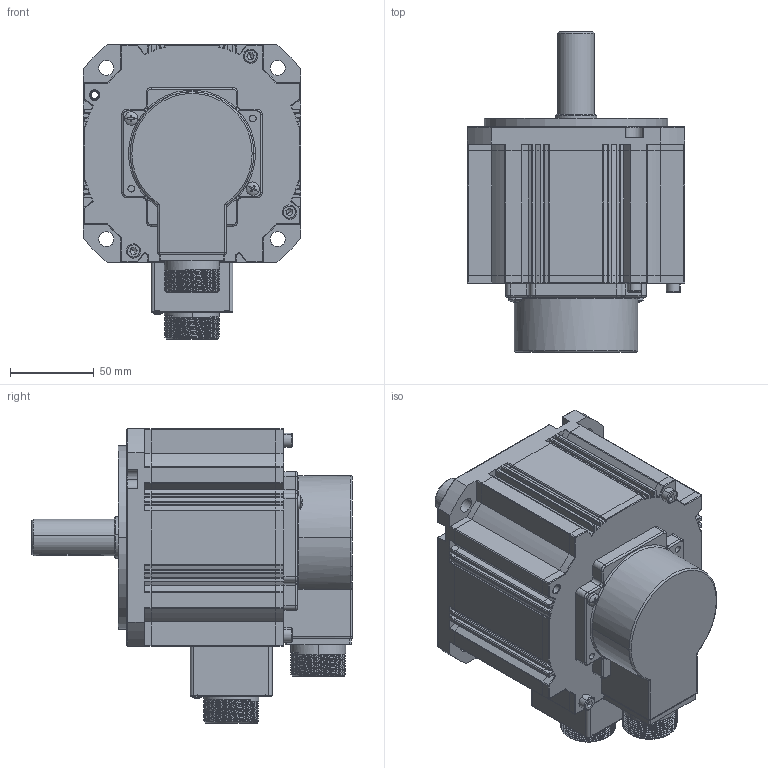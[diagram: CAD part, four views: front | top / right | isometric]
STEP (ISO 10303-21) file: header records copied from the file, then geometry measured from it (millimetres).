
FILE_DESCRIPTION (( 'STEP AP203' ), '1' );
FILE_NAME ('130JASM515230K-17BCW.STEP', '2022-06-20T08:51:23', ( 'USER-' ), ( 'MS' ), 'SwSTEP 2.0', 'SolidWorks 2018', '' );
FILE_SCHEMA (( 'CONFIG_CONTROL_DESIGN' ));
Length unit declared in the file: millimetre
Products named in the file (16): 130JASM515230K-17BCW; jike^WF130ST-C14315-3D(1)_WF130ST-C14315-3D(1); ______-1^WF130ST-C14315-3D(1)_WF130ST-C14315-3D(1); ______^_________WF130ST-C14315-3D(1)_WF130ST-C14315-3D(1); ______-2^WF130ST-C14315-3D(1)_WF130ST-C14315-3D(1); ____1^_________WF130ST-C14315-3D(1)_WF130ST-C14315-3D(1); ________-3^WF130ST-C14315-3D(1)_WF130ST-C14315-3D(1); ______-0^_________WF130ST-C14315-3D(1)_WF130ST-C14315-3D(1); hexagon socket head cap screws gb_GB_FASTENER_SCREWS_HSHCS M5X20-N^WF130ST-C14315-3D(1)_WF130ST-C14315-3D(1); ________^WF130ST-C14315-3D(1)_WF130ST-C14315-3D(1); cross recessed pan head screws gb_GB_CROSS_SCREWS_TYPE1 M4X12-12  H type-N^WF130ST-C14315-3D(1)_WF130ST-C14315-3D(1); __^________-1_WF130ST-C14315-3D(1)_WF130ST-C14315-3D(1); cross recessed pan head screws gb_GB_CROSS_SCREWS_TYPE1 M3X12-12  H type-N^WF130ST-C14315-3D(1)_WF130ST-C14315-3D(1); deep groove ball bearings gb_Rolling bearings 6205 GB 276-94^________-1_WF130ST-C14315-3D(1)_WF130ST-C14315-3D(1); ____2^WF130ST-C14315-3D(1)_WF130ST-C14315-3D(1); ________-1^WF130ST-C14315-3D(1)_WF130ST-C14315-3D(1)
Assembly tree (20 placements, depth 3):
  130JASM515230K-17BCW
    ________^WF130ST-C14315-3D(1)_WF130ST-C14315-3D(1)
      ______^_________WF130ST-C14315-3D(1)_WF130ST-C14315-3D(1)
      ____1^_________WF130ST-C14315-3D(1)_WF130ST-C14315-3D(1)
      ______-0^_________WF130ST-C14315-3D(1)_WF130ST-C14315-3D(1)
    ________-1^WF130ST-C14315-3D(1)_WF130ST-C14315-3D(1)
      __^________-1_WF130ST-C14315-3D(1)_WF130ST-C14315-3D(1)
      deep groove ball bearings gb_Rolling bearings 6205 GB 276-94^________-1_WF130ST-C14315-3D(1)_WF130ST-C14315-3D(1)  x2
    jike^WF130ST-C14315-3D(1)_WF130ST-C14315-3D(1)
    ______-1^WF130ST-C14315-3D(1)_WF130ST-C14315-3D(1)
    ______-2^WF130ST-C14315-3D(1)_WF130ST-C14315-3D(1)
    ________-3^WF130ST-C14315-3D(1)_WF130ST-C14315-3D(1)
    hexagon socket head cap screws gb_GB_FASTENER_SCREWS_HSHCS M5X20-N^WF130ST-C14315-3D(1)_WF130ST-C14315-3D(1)  x4
    cross recessed pan head screws gb_GB_CROSS_SCREWS_TYPE1 M4X12-12  H type-N^WF130ST-C14315-3D(1)_WF130ST-C14315-3D(1)  x2
    cross recessed pan head screws gb_GB_CROSS_SCREWS_TYPE1 M3X12-12  H type-N^WF130ST-C14315-3D(1)_WF130ST-C14315-3D(1)
    ____2^WF130ST-C14315-3D(1)_WF130ST-C14315-3D(1)
Bounding box: 130 x 192 x 176 mm (x, y, z)
Volume: 703748.1 mm3; surface area: 301482 mm2
Topology: 18 solids, 18 shells, 2211 faces, 6022 edges, 3703 vertices
Faces by surface type: cylinder 921, plane 598, torus 378, sphere 156, bspline 116, cone 42
Entity records: 78269 total; most frequent: CARTESIAN_POINT 28688, ORIENTED_EDGE 10192, DIRECTION 10077, EDGE_CURVE 5096, AXIS2_PLACEMENT_3D 4009, VERTEX_POINT 3184, EDGE_LOOP 2138, CIRCLE 2125
